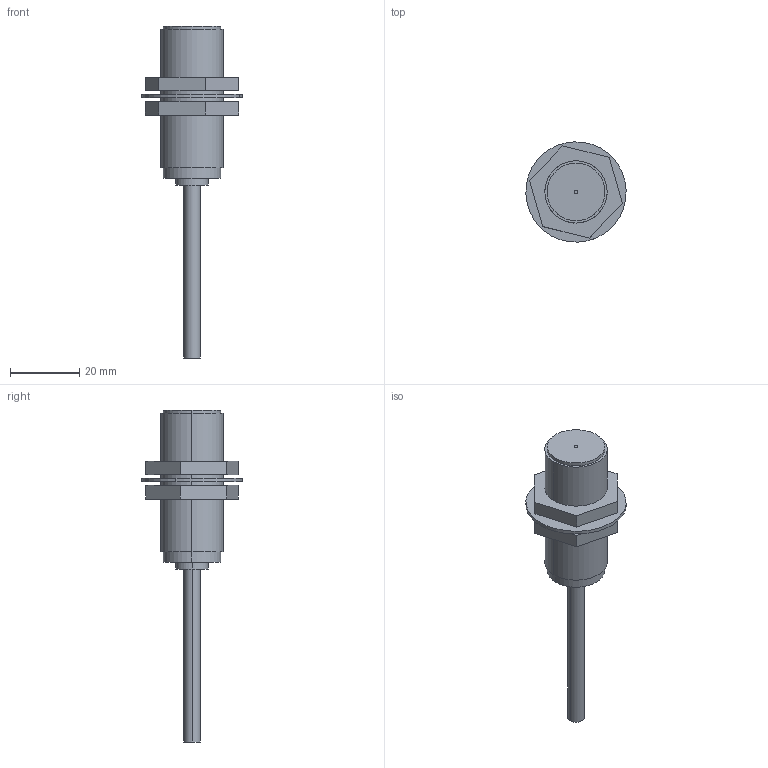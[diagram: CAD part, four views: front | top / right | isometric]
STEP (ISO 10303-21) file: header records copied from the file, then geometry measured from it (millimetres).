
FILE_DESCRIPTION (( 'STEP AP203' ), '1' );
FILE_NAME ('gx-118mk.STEP', '2017-05-18T02:00:50', ( '' ), ( '' ), 'SwSTEP 2.0', 'SolidWorks 2014', '' );
FILE_SCHEMA (( 'CONFIG_CONTROL_DESIGN' ));
Length unit declared in the file: millimetre
Products named in the file (4): gx-118mk dianpian; gx-118mk luomu; gx-118mk benti; gx-118mk
Assembly tree (4 placements, depth 2):
  gx-118mk
    gx-118mk benti
    gx-118mk dianpian
    gx-118mk luomu  x2
Bounding box: 28.99 x 28.99 x 96 mm (x, y, z)
Volume: 14454.1 mm3; surface area: 6850.1 mm2
Topology: 4 solids, 4 shells, 60 faces, 126 edges, 84 vertices
Faces by surface type: cylinder 30, plane 30
Entity records: 1796 total; most frequent: DIRECTION 272, CARTESIAN_POINT 227, ORIENTED_EDGE 204, AXIS2_PLACEMENT_3D 113, EDGE_CURVE 102, VERTEX_POINT 68, EDGE_LOOP 64, CIRCLE 56
